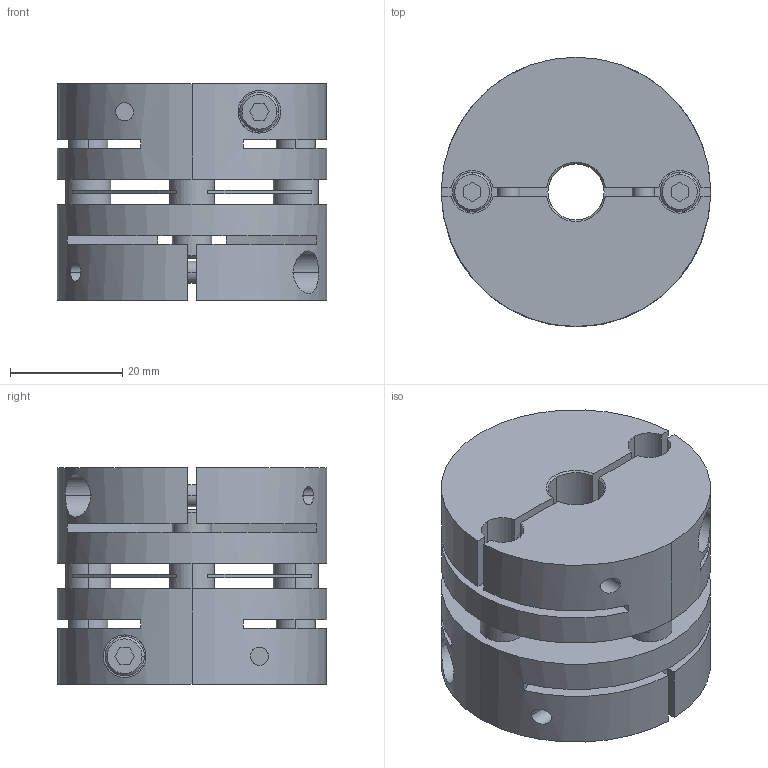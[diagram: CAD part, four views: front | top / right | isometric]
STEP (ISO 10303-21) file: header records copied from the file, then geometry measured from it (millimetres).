
FILE_DESCRIPTION((''),'2;1');
FILE_NAME('LAS-48C-10×15.stp','2015-10-14T15:35:54',(''),(''),'AutoCAD STEP 2000i','AutoCAD 2000i',', , ');
FILE_SCHEMA(('CONFIG_CONTROL_DESIGN'));
Length unit declared in the file: millimetre
Products named in the file (5): LAS-48C-12×12; 忣兜1; LA-4802-D12-1; LA-4802-D12; LAS48-ITA
Assembly tree (4 placements, depth 2):
  LAS-48C-12×12
    忣兜1
    LA-4802-D12-1
    LA-4802-D12
    LAS48-ITA
Bounding box: 48 x 48 x 38.6 mm (x, y, z)
Volume: 51294.3 mm3; surface area: 22669.8 mm2
Topology: 1 solids, 1 shells, 224 faces, 588 edges, 384 vertices
Faces by surface type: plane 112, cylinder 84, cone 28
Entity records: 7607 total; most frequent: CARTESIAN_POINT 1713, DIRECTION 1250, ORIENTED_EDGE 1176, EDGE_CURVE 588, AXIS2_PLACEMENT_3D 457, VERTEX_POINT 384, VECTOR 336, LINE 336
